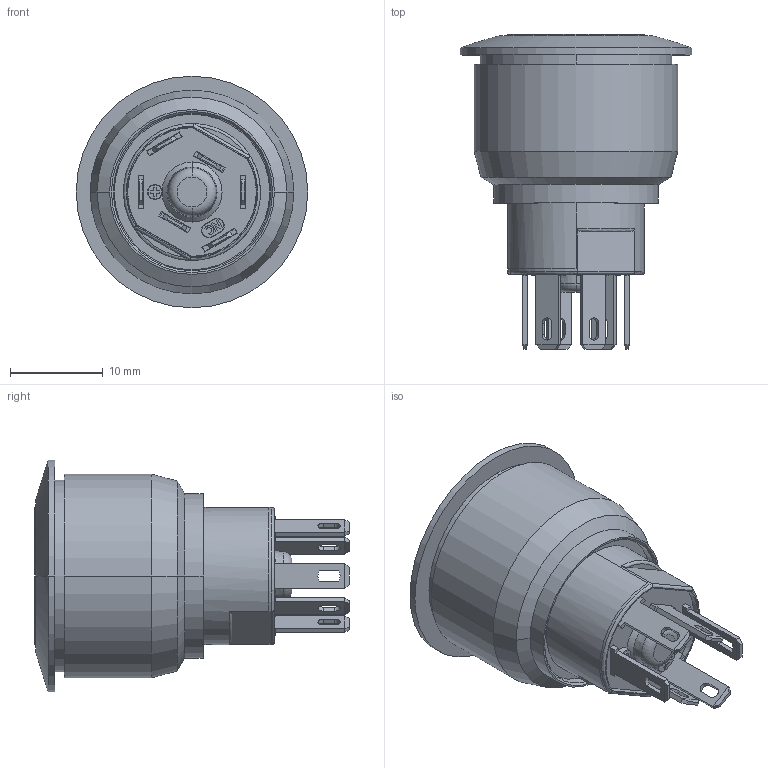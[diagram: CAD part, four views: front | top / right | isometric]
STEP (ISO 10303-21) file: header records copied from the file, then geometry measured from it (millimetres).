
FILE_DESCRIPTION((''),'2;1');
FILE_NAME('AV3512C0200700','2011-11-23T',('jlgachon'),(''),'PRO/ENGINEER BY PARAMETRIC TECHNOLOGY CORPORATION, 2010280','PRO/ENGINEER BY PARAMETRIC TECHNOLOGY CORPORATION, 2010280','');
FILE_SCHEMA(('CONFIG_CONTROL_DESIGN'));
Length unit declared in the file: millimetre
Products named in the file (1): AV3512C0200700
Bounding box: 25 x 34 x 25 mm (x, y, z)
Surface area: 3403.8 mm2 (no closed solid volume)
Topology: 0 solids, 10 shells, 162 faces, 552 edges, 407 vertices
Faces by surface type: plane 110, cylinder 28, cone 16, torus 6, sphere 2
Entity records: 6109 total; most frequent: CARTESIAN_POINT 1224, DIRECTION 985, ORIENTED_EDGE 926, EDGE_CURVE 552, VECTOR 415, LINE 415, VERTEX_POINT 407, AXIS2_PLACEMENT_3D 285
